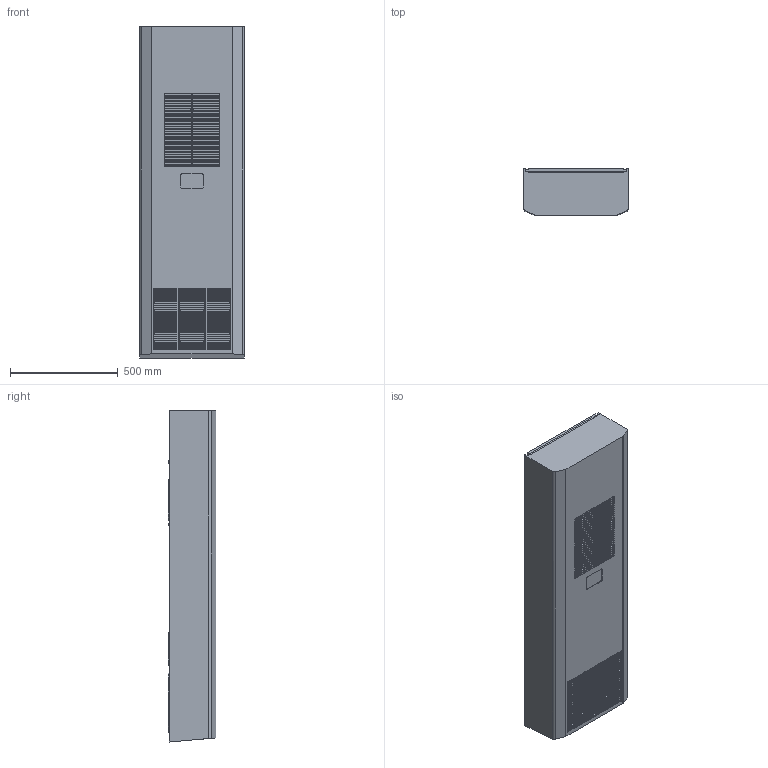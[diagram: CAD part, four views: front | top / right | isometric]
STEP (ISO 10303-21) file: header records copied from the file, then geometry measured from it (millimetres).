
FILE_DESCRIPTION (( 'STEP AP214' ), '1' );
FILE_NAME ('DTS 62_6301.STEP', '2026-04-29T13:56:13', ( '' ), ( '' ), 'SwSTEP 2.0', 'SolidWorks 2024', '' );
FILE_SCHEMA (( 'AUTOMOTIVE_DESIGN' ));
Length unit declared in the file: millimetre
Products named in the file (1): DTS 62_6301
Bounding box: 485 x 220.62 x 1542.27 mm (x, y, z)
Volume: 157432748.2 mm3; surface area: 2535519.8 mm2
Topology: 1 solids, 1 shells, 921 faces, 2220 edges, 1478 vertices
Faces by surface type: plane 561, cylinder 360
Entity records: 26965 total; most frequent: DIRECTION 4776, CARTESIAN_POINT 4632, ORIENTED_EDGE 4440, EDGE_CURVE 2220, AXIS2_PLACEMENT_3D 1638, LINE 1500, VECTOR 1500, VERTEX_POINT 1478
